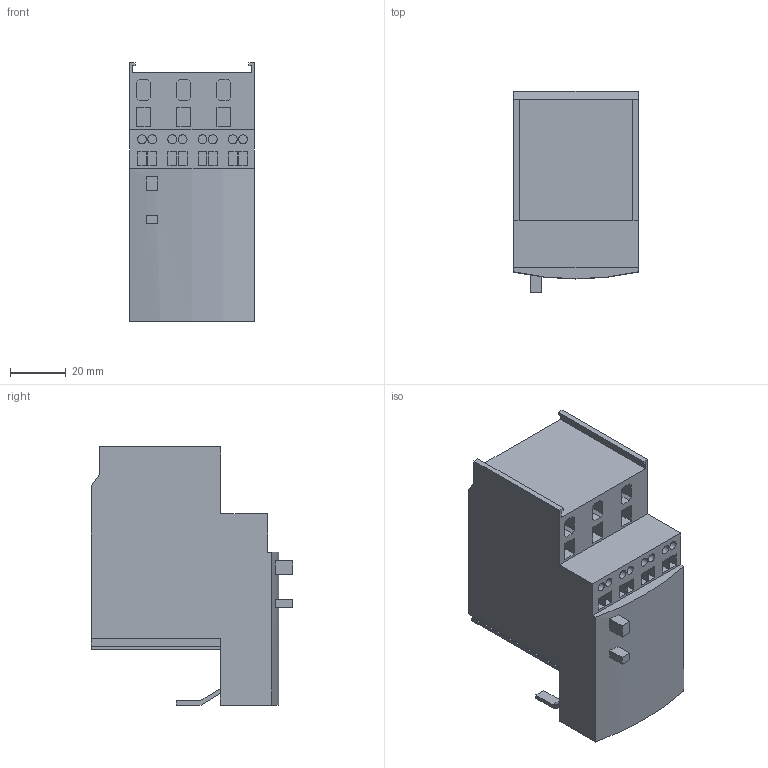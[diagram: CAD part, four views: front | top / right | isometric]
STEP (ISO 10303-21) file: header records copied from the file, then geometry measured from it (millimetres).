
FILE_DESCRIPTION((''),'2;1');
FILE_NAME('LRD063','2017-12-08T',('SESA468396'),('Schneider-Electric'),'PRO/ENGINEER BY PARAMETRIC TECHNOLOGY CORPORATION, 2015440','PRO/ENGINEER BY PARAMETRIC TECHNOLOGY CORPORATION, 2015440','');
FILE_SCHEMA(('CONFIG_CONTROL_DESIGN'));
Length unit declared in the file: millimetre
Products named in the file (1): LRD063
Bounding box: 45 x 72.5 x 93 mm (x, y, z)
Volume: 201571.1 mm3; surface area: 27237 mm2
Topology: 1 solids, 1 shells, 167 faces, 414 edges, 276 vertices
Faces by surface type: plane 150, cylinder 17
Entity records: 4924 total; most frequent: CARTESIAN_POINT 857, ORIENTED_EDGE 828, DIRECTION 786, EDGE_CURVE 414, VECTOR 376, LINE 376, VERTEX_POINT 276, AXIS2_PLACEMENT_3D 205
